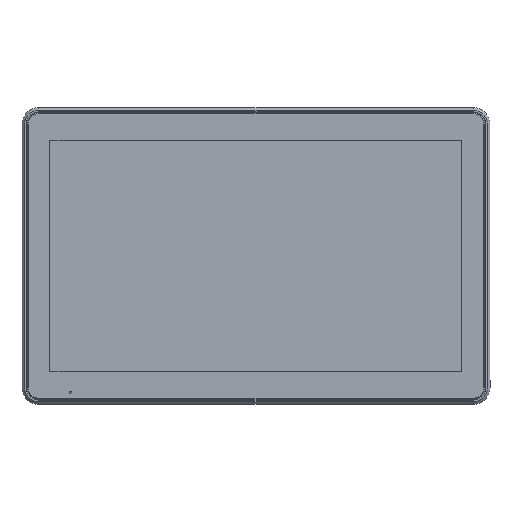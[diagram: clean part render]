
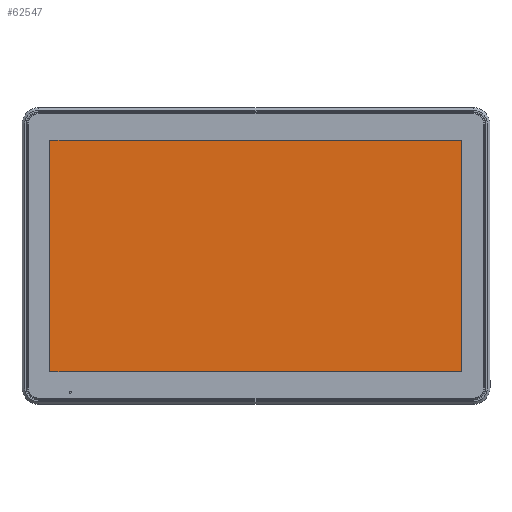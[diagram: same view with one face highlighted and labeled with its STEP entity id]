
A CAD part, top view. The second image highlights one B-rep face of the part: STEP entity #62547.
In plain terms, the highlighted planar face has unit normal (0, 0, 1).
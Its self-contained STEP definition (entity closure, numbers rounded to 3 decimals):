
#5977=FACE_OUTER_BOUND('',#9516,.T.);
#9516=EDGE_LOOP('',(#50546,#50547,#50548,#50549));
#15163=LINE('',#106410,#20770);
#15164=LINE('',#106412,#20771);
#15165=LINE('',#106414,#20772);
#15166=LINE('',#106415,#20773);
#20770=VECTOR('',#77204,10.);
#20771=VECTOR('',#77205,10.);
#20772=VECTOR('',#77206,10.);
#20773=VECTOR('',#77207,10.);
#27542=VERTEX_POINT('',#106408);
#27543=VERTEX_POINT('',#106409);
#27544=VERTEX_POINT('',#106411);
#27545=VERTEX_POINT('',#106413);
#35455=EDGE_CURVE('',#27542,#27543,#15163,.T.);
#35456=EDGE_CURVE('',#27543,#27544,#15164,.T.);
#35457=EDGE_CURVE('',#27544,#27545,#15165,.T.);
#35458=EDGE_CURVE('',#27545,#27542,#15166,.T.);
#50546=ORIENTED_EDGE('',*,*,#35455,.T.);
#50547=ORIENTED_EDGE('',*,*,#35456,.T.);
#50548=ORIENTED_EDGE('',*,*,#35457,.T.);
#50549=ORIENTED_EDGE('',*,*,#35458,.T.);
#56617=PLANE('',#66036);
#62547=ADVANCED_FACE('',(#5977),#56617,.T.);
#66036=AXIS2_PLACEMENT_3D('',#106407,#77202,#77203);
#77202=DIRECTION('center_axis',(0.,0.,
1.));
#77203=DIRECTION('ref_axis',(-1.,0.,0.));
#77204=DIRECTION('',(1.,0.,0.));
#77205=DIRECTION('',(0.,1.,0.));
#77206=DIRECTION('',(-1.,0.,0.));
#77207=DIRECTION('',(0.,-1.,0.));
#106407=CARTESIAN_POINT('Origin',(-0.25,-0.6,
2.998));
#106408=CARTESIAN_POINT('',(-205.6,-115.9,2.998));
#106409=CARTESIAN_POINT('',(204.6,-115.9,2.998));
#106410=CARTESIAN_POINT('',(-0.375,-115.9,2.998));
#106411=CARTESIAN_POINT('',(204.6,114.9,2.998));
#106412=CARTESIAN_POINT('',(204.6,-0.55,2.998));
#106413=CARTESIAN_POINT('',(-205.6,114.9,2.998));
#106414=CARTESIAN_POINT('',(-102.925,114.9,2.998));
#106415=CARTESIAN_POINT('',(-205.6,-58.25,2.998));
